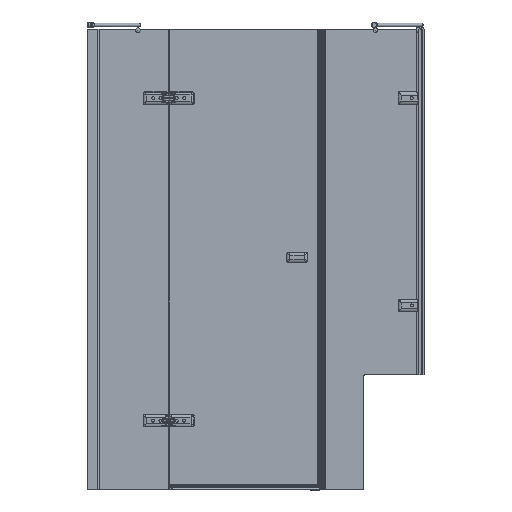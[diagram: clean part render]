
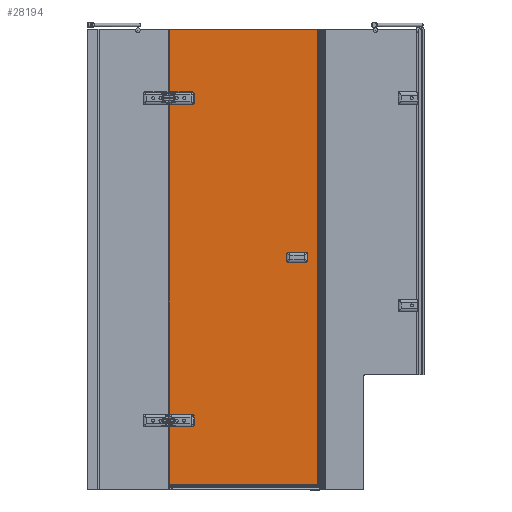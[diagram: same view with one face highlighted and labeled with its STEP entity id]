
A CAD part, left-side view. The second image highlights one B-rep face of the part: STEP entity #28194.
In plain terms, the highlighted planar face has unit normal (-1, 0, 0).
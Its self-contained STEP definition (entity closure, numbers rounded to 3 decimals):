
#293=FACE_BOUND($,#4893,.T.);
#294=FACE_BOUND($,#4894,.T.);
#295=FACE_BOUND($,#4895,.T.);
#1048=CIRCLE($,#29299,6.5);
#1207=CIRCLE($,#29724,6.5);
#1494=CIRCLE($,#30561,10.);
#1495=CIRCLE($,#30562,10.);
#1496=CIRCLE($,#30563,10.);
#1497=CIRCLE($,#30564,10.);
#4893=EDGE_LOOP($,(#23341));
#4894=EDGE_LOOP($,(#23342));
#4895=EDGE_LOOP($,(#23343,#23344,#23345,#23346,#23347,#23348,#23349,#23350,
#23351,#23352,#23353,#23354,#23355,#23356,#23357,#23358));
#6390=LINE($,#58514,#8800);
#6840=LINE($,#60967,#9250);
#7036=LINE($,#64506,#9446);
#7613=LINE($,#66443,#10023);
#7621=LINE($,#66645,#10031);
#7631=LINE($,#66674,#10041);
#7633=LINE($,#66678,#10043);
#7634=LINE($,#66682,#10044);
#7635=LINE($,#66685,#10045);
#7636=LINE($,#66689,#10046);
#7637=LINE($,#66692,#10047);
#7638=LINE($,#66693,#10048);
#8800=VECTOR($,#33852,1362.);
#9250=VECTOR($,#35156,281.);
#9446=VECTOR($,#35834,644.147);
#10023=VECTOR($,#37163,30.747);
#10031=VECTOR($,#37191,256.4);
#10041=VECTOR($,#37229,30.747);
#10043=VECTOR($,#37233,30.747);
#10044=VECTOR($,#37236,18.);
#10045=VECTOR($,#37239,30.747);
#10046=VECTOR($,#37242,18.);
#10047=VECTOR($,#37245,644.147);
#10048=VECTOR($,#37246,1975.4);
#11238=VERTEX_POINT($,#57415);
#11418=VERTEX_POINT($,#58511);
#11419=VERTEX_POINT($,#58513);
#11665=VERTEX_POINT($,#59863);
#11846=VERTEX_POINT($,#60964);
#11847=VERTEX_POINT($,#60966);
#12132=VERTEX_POINT($,#64505);
#12562=VERTEX_POINT($,#66442);
#12592=VERTEX_POINT($,#66633);
#12593=VERTEX_POINT($,#66644);
#12598=VERTEX_POINT($,#66673);
#12599=VERTEX_POINT($,#66677);
#12600=VERTEX_POINT($,#66679);
#12601=VERTEX_POINT($,#66681);
#12602=VERTEX_POINT($,#66684);
#12603=VERTEX_POINT($,#66686);
#12604=VERTEX_POINT($,#66688);
#12605=VERTEX_POINT($,#66691);
#14140=EDGE_CURVE($,#11238,#11238,#1048,.T.);
#14427=EDGE_CURVE($,#11419,#11418,#6390,.T.);
#14821=EDGE_CURVE($,#11665,#11665,#1207,.T.);
#15111=EDGE_CURVE($,#11847,#11846,#6840,.T.);
#15510=EDGE_CURVE($,#11847,#12132,#7036,.T.);
#16226=EDGE_CURVE($,#12562,#11419,#7613,.T.);
#16258=EDGE_CURVE($,#12593,#12592,#7621,.T.);
#16272=EDGE_CURVE($,#12598,#12593,#7631,.T.);
#16274=EDGE_CURVE($,#11846,#12599,#7633,.T.);
#16275=EDGE_CURVE($,#12600,#12599,#1494,.T.);
#16276=EDGE_CURVE($,#12600,#12601,#7634,.T.);
#16277=EDGE_CURVE($,#12562,#12601,#1495,.T.);
#16278=EDGE_CURVE($,#11418,#12602,#7635,.T.);
#16279=EDGE_CURVE($,#12603,#12602,#1496,.T.);
#16280=EDGE_CURVE($,#12603,#12604,#7636,.T.);
#16281=EDGE_CURVE($,#12598,#12604,#1497,.T.);
#16282=EDGE_CURVE($,#12605,#12592,#7637,.T.);
#16283=EDGE_CURVE($,#12132,#12605,#7638,.T.);
#23341=ORIENTED_EDGE($,*,*,#14140,.T.);
#23342=ORIENTED_EDGE($,*,*,#14821,.T.);
#23343=ORIENTED_EDGE($,*,*,#15111,.T.);
#23344=ORIENTED_EDGE($,*,*,#16274,.T.);
#23345=ORIENTED_EDGE($,*,*,#16275,.F.);
#23346=ORIENTED_EDGE($,*,*,#16276,.T.);
#23347=ORIENTED_EDGE($,*,*,#16277,.F.);
#23348=ORIENTED_EDGE($,*,*,#16226,.T.);
#23349=ORIENTED_EDGE($,*,*,#14427,.T.);
#23350=ORIENTED_EDGE($,*,*,#16278,.T.);
#23351=ORIENTED_EDGE($,*,*,#16279,.F.);
#23352=ORIENTED_EDGE($,*,*,#16280,.T.);
#23353=ORIENTED_EDGE($,*,*,#16281,.F.);
#23354=ORIENTED_EDGE($,*,*,#16272,.T.);
#23355=ORIENTED_EDGE($,*,*,#16258,.T.);
#23356=ORIENTED_EDGE($,*,*,#16282,.F.);
#23357=ORIENTED_EDGE($,*,*,#16283,.F.);
#23358=ORIENTED_EDGE($,*,*,#15510,.F.);
#25216=PLANE($,#30560);
#28194=ADVANCED_FACE($,(#293,#294,#295),#25216,.T.);
#29299=AXIS2_PLACEMENT_3D($,#57416,#33286,#33287);
#29724=AXIS2_PLACEMENT_3D($,#59864,#34584,#34585);
#30560=AXIS2_PLACEMENT_3D($,#66676,#37231,#37232);
#30561=AXIS2_PLACEMENT_3D($,#66680,#37234,#37235);
#30562=AXIS2_PLACEMENT_3D($,#66683,#37237,#37238);
#30563=AXIS2_PLACEMENT_3D($,#66687,#37240,#37241);
#30564=AXIS2_PLACEMENT_3D($,#66690,#37243,#37244);
#33286=DIRECTION('center_axis',(1.,0.,0.));
#33287=DIRECTION('ref_axis',(0.,1.,0.));
#33852=DIRECTION($,(0.,0.,-1.));
#34584=DIRECTION('center_axis',(1.,0.,0.));
#34585=DIRECTION('ref_axis',(0.,1.,0.));
#35156=DIRECTION($,(0.,0.,-1.));
#35834=DIRECTION($,(0.,-1.,0.));
#37163=DIRECTION($,(0.,1.,0.));
#37191=DIRECTION($,(0.,0.,-1.));
#37229=DIRECTION($,(0.,1.,0.));
#37231=DIRECTION('center_axis',(-1.,0.,0.));
#37232=DIRECTION('ref_axis',(0.,-1.,0.));
#37233=DIRECTION($,(0.,-1.,0.));
#37234=DIRECTION('center_axis',(-1.,0.,0.));
#37235=DIRECTION('ref_axis',(0.,-0.707,0.707));
#37236=DIRECTION($,(0.,0.,-1.));
#37237=DIRECTION('center_axis',(-1.,0.,0.));
#37238=DIRECTION('ref_axis',(0.,-0.707,-0.707));
#37239=DIRECTION($,(0.,-1.,0.));
#37240=DIRECTION('center_axis',(-1.,0.,0.));
#37241=DIRECTION('ref_axis',(0.,-0.707,0.707));
#37242=DIRECTION($,(0.,0.,-1.));
#37243=DIRECTION('center_axis',(-1.,0.,0.));
#37244=DIRECTION('ref_axis',(0.,-0.707,-0.707));
#37245=DIRECTION($,(0.,1.,0.));
#37246=DIRECTION($,(0.,0.,-1.));
#57415=CARTESIAN_POINT('',(1225.733,819.456,-214.056));
#57416=CARTESIAN_POINT('Origin',(1225.733,825.956,-214.056));
#58511=CARTESIAN_POINT('',(1225.733,889.703,-195.056));
#58513=CARTESIAN_POINT('',(1225.733,889.703,1166.944));
#58514=CARTESIAN_POINT($,(1225.733,889.703,1175.944));
#59863=CARTESIAN_POINT('',(1225.733,819.456,1185.944));
#59864=CARTESIAN_POINT('Origin',(1225.733,825.956,1185.944));
#60964=CARTESIAN_POINT('',(1225.733,889.703,1204.944));
#60966=CARTESIAN_POINT('',(1225.733,889.703,1485.944));
#60967=CARTESIAN_POINT($,(1225.733,889.703,1195.944));
#64505=CARTESIAN_POINT('',(1225.733,245.556,1485.944));
#64506=CARTESIAN_POINT($,(1225.733,890.956,1485.944));
#66442=CARTESIAN_POINT('',(1225.733,858.956,1166.944));
#66443=CARTESIAN_POINT($,(1225.733,869.956,1166.944));
#66633=CARTESIAN_POINT('',(1225.733,889.703,-489.456));
#66644=CARTESIAN_POINT('',(1225.733,889.703,-233.056));
#66645=CARTESIAN_POINT($,(1225.733,889.703,-514.056));
#66673=CARTESIAN_POINT('',(1225.733,858.956,-233.056));
#66674=CARTESIAN_POINT($,(1225.733,869.956,-233.056));
#66676=CARTESIAN_POINT('Origin',(1225.733,890.956,-494.056));
#66677=CARTESIAN_POINT('',(1225.733,858.956,1204.944));
#66678=CARTESIAN_POINT($,(1225.733,890.956,1204.944));
#66679=CARTESIAN_POINT('',(1225.733,848.956,1194.944));
#66680=CARTESIAN_POINT('Origin',(1225.733,858.956,1194.944));
#66681=CARTESIAN_POINT('',(1225.733,848.956,1176.944));
#66682=CARTESIAN_POINT($,(1225.733,848.956,355.444));
#66683=CARTESIAN_POINT('Origin',(1225.733,858.956,1176.944));
#66684=CARTESIAN_POINT('',(1225.733,858.956,-195.056));
#66685=CARTESIAN_POINT($,(1225.733,890.956,-195.056));
#66686=CARTESIAN_POINT('',(1225.733,848.956,-205.056));
#66687=CARTESIAN_POINT('Origin',(1225.733,858.956,-205.056));
#66688=CARTESIAN_POINT('',(1225.733,848.956,-223.056));
#66689=CARTESIAN_POINT($,(1225.733,848.956,-344.556));
#66690=CARTESIAN_POINT('Origin',(1225.733,858.956,-223.056));
#66691=CARTESIAN_POINT('',(1225.733,245.556,-489.456));
#66692=CARTESIAN_POINT($,(1225.733,230.956,-489.456));
#66693=CARTESIAN_POINT($,(1225.733,245.556,1485.944));
